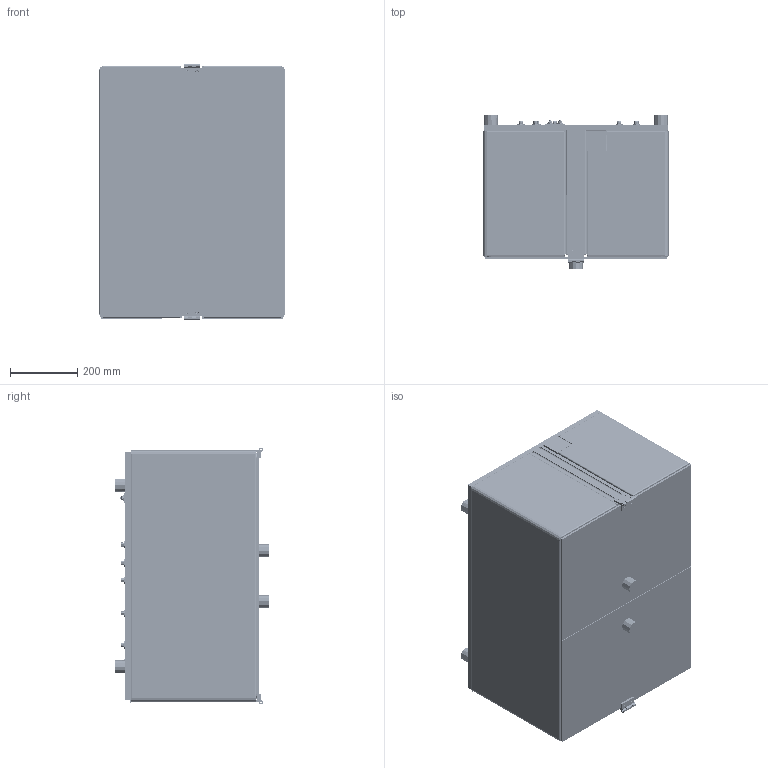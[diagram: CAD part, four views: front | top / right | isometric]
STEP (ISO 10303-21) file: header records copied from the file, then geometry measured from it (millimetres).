
FILE_DESCRIPTION(/* description */ ('© Copyright 2019 – Urheberrechtshinweis Diese CAD-Daten sind urheberrechtlich geschützt. Das Urheberrecht liegt, soweit nicht ausdrücklich anders gekennzeichnet, bei Stöger Automation GmbH. Bitte fragen Sie uns, falls Sie die CAD-Daten vervielfältigen oder','CAx-IF Rec.Pracs.---Representation and Presentation of Product Manufacturing Information (PMI)---4.0---2014-10-13'),/* implementation_level */ '2;1');
FILE_NAME(/* name */ 'H:\00_0 Arbeiten für Marketing\581411\3D_Step_file_ZSE4000 ELK.stp',/* time_stamp */ '2020-07-17T11:37:30+02:00',/* author */ ('Stöger Automation GmbH'),/* organization */ ('Stöger Automation GmbH'),/* preprocessor_version */ 'ST-DEVELOPER v17',/* originating_system */ 'Autodesk Inventor 2018',/* authorisation */ '');
FILE_SCHEMA (('AP242_MANAGED_MODEL_BASED_3D_ENGINEERING_MIM_LF { 1 0 10303 442 1 1 4 }'));
Products named in the file (1): 581411
Bounding box: 554 x 458.5 x 766.5 mm (x, y, z)
Volume: 28990899.8 mm3; surface area: 6087397.3 mm2
Topology: 10 solids, 145 shells, 9331 faces, 25480 edges, 16506 vertices
Faces by surface type: plane 4998, cylinder 2597, cone 675, bspline 482, torus 434, sphere 145
Full cylindrical faces by diameter (mm): 0.5 x1, 0.8 x6, 1 x1, 1.5 x6, 1.8 x2, 2 x8, 2.459 x7, 2.8 x1, 2.9 x2, 3 x29, 3.05 x1, 3.1 x1, 3.2 x7, 3.242 x29, 3.387 x2, 3.48 x2, 3.6 x3, 3.8 x2, 3.99 x4, 4 x52, 4.019 x6, 4.03 x6, 4.134 x20, 4.2 x5, 4.3 x20, 4.5 x7, 4.567 x1, 4.85 x1, 4.917 x44, 5 x37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
Entity records: 342918 total; most frequent: CARTESIAN_POINT 97078, ORIENTED_EDGE 50506, DIRECTION 49036, EDGE_CURVE 25253, AXIS2_PLACEMENT_3D 17604, VERTEX_POINT 16505, LINE 13828, VECTOR 13828
